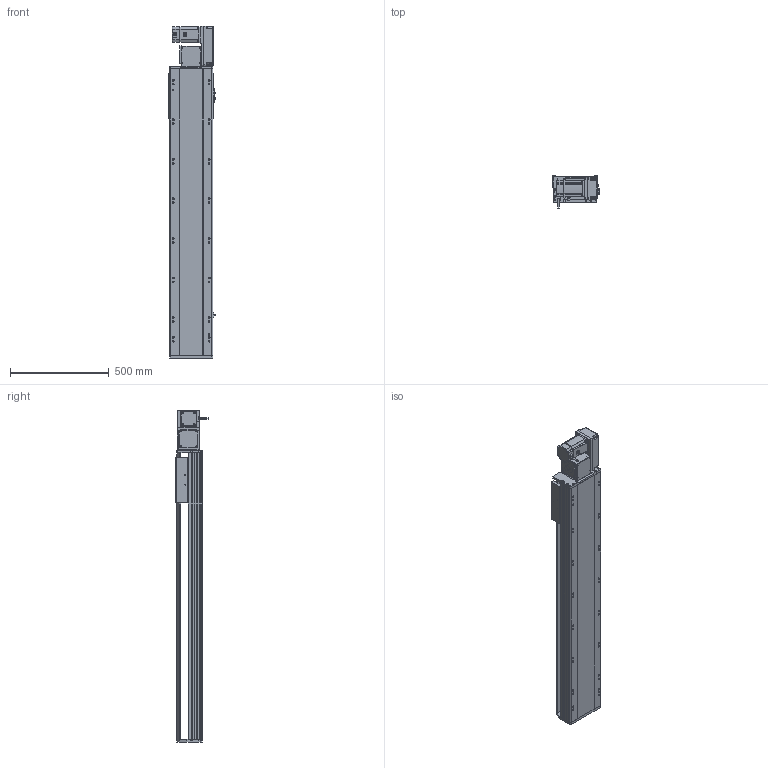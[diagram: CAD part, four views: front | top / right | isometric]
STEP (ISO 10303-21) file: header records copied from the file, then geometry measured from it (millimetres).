
FILE_DESCRIPTION (( 'STEP AP214' ), '1' );
FILE_NAME ('RTB22S-XX-1100-R-M75-C4.STEP', '2025-12-12T07:20:08', ( '' ), ( '' ), 'SwSTEP 2.0', 'SolidWorks 2018', '' );
FILE_SCHEMA (( 'AUTOMOTIVE_DESIGN' ));
Length unit declared in the file: millimetre
Products named in the file (14): RTB22S-GY-005P^RTB22S-R-々湍釱蚾饜_RTB22S-XX-XX-R-M75-C4; RTB22S-XX-1100-R-M75-C4; RTB22S-R-々湍釱蚾饜^RTB22S-XX-XX-R-M75-C4; RTB22S-GY-017P^RTB22S-R-々湍釱蚾饜_RTB22S-XX-XX-R-M75-C4; OMRON EE-SX672 传感器^RTB22S-XX-XX-R-M75-C4; RTB22S-L-004賑釱^RTB22S-XX-XX-R-M75-C4; RTB22S-GY-007奻裔^RTB22S-XX-XX-R-M75-C4; RTB22S-GY-008-M75--萇儂啣^RTB22S-R-々湍釱蚾饜_RTB22S-XX-XX-R-M75-C4; RTB22S-GY-001耜裔^RTB22S-XX-XX-R-M75-C4; RTB22S-L-011菁釱^RTB22S-XX-XX-R-M75-C4; RTB22S-GY-018P^RTB22S-R-々湍釱蚾饜_RTB22S-XX-XX-R-M75-C4; RTB22S-GY-014--々湍釱^RTB22S-R-々湍釱蚾饜_RTB22S-XX-XX-R-M75-C4; RTH22-GY-013外置感应片^RTB22S-XX-XX-R-M75-C4; 750W萇儂^RTB22S-XX-XX-R-M75-C4
Assembly tree (16 placements, depth 3):
  RTB22S-XX-1100-R-M75-C4
    RTB22S-L-011菁釱^RTB22S-XX-XX-R-M75-C4
    RTB22S-GY-001耜裔^RTB22S-XX-XX-R-M75-C4
    750W萇儂^RTB22S-XX-XX-R-M75-C4
    RTB22S-GY-007奻裔^RTB22S-XX-XX-R-M75-C4
    RTB22S-L-004賑釱^RTB22S-XX-XX-R-M75-C4
    RTH22-GY-013外置感应片^RTB22S-XX-XX-R-M75-C4
    OMRON EE-SX672 传感器^RTB22S-XX-XX-R-M75-C4  x3
    RTB22S-R-々湍釱蚾饜^RTB22S-XX-XX-R-M75-C4
      RTB22S-GY-014--々湍釱^RTB22S-R-々湍釱蚾饜_RTB22S-XX-XX-R-M75-C4
      RTB22S-GY-017P^RTB22S-R-々湍釱蚾饜_RTB22S-XX-XX-R-M75-C4  x2
      RTB22S-GY-005P^RTB22S-R-々湍釱蚾饜_RTB22S-XX-XX-R-M75-C4
      RTB22S-GY-008-M75--萇儂啣^RTB22S-R-々湍釱蚾饜_RTB22S-XX-XX-R-M75-C4
      RTB22S-GY-018P^RTB22S-R-々湍釱蚾饜_RTB22S-XX-XX-R-M75-C4
Bounding box: 238.5 x 162.7 x 1679 mm (x, y, z)
Volume: 22452916.4 mm3; surface area: 2333211.9 mm2
Topology: 15 solids, 15 shells, 1983 faces, 5386 edges, 3452 vertices
Faces by surface type: plane 915, cylinder 622, bspline 296, cone 138, sphere 8, torus 4
Entity records: 52768 total; most frequent: CARTESIAN_POINT 15172, ORIENTED_EDGE 7560, DIRECTION 7274, EDGE_CURVE 3780, AXIS2_PLACEMENT_3D 2566, VERTEX_POINT 2456, VECTOR 2142, LINE 2142
